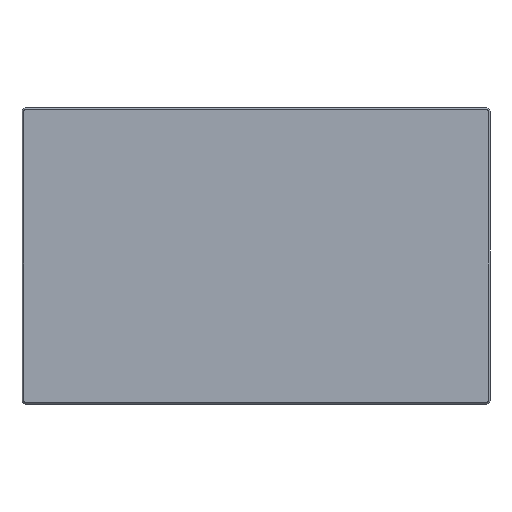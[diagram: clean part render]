
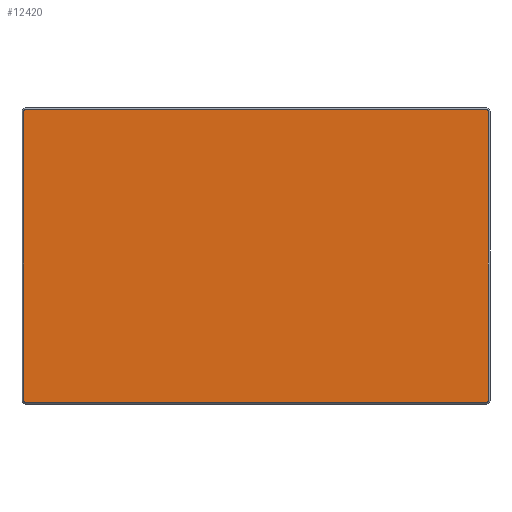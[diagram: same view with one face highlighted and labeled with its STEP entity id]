
A CAD part, top view. The second image highlights one B-rep face of the part: STEP entity #12420.
In plain terms, the highlighted planar face has unit normal (0, 0, 1).
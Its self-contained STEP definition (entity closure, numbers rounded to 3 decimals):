
#93 = EDGE_CURVE ( 'NONE', #1311, #3936, #15179, .T. ) ;
#364 = VERTEX_POINT ( 'NONE', #12209 ) ;
#395 = EDGE_CURVE ( 'NONE', #364, #12132, #5463, .T. ) ;
#541 = VECTOR ( 'NONE', #9285, 1000. ) ;
#870 = CARTESIAN_POINT ( 'NONE',  ( -227.8, -145.3, 8. ) ) ;
#1155 = CARTESIAN_POINT ( 'NONE',  ( -230.3, 142.8, 8. ) ) ;
#1214 = EDGE_CURVE ( 'NONE', #8481, #13549, #14769, .T. ) ;
#1282 = ORIENTED_EDGE ( 'NONE', *, *, #6773, .T. ) ;
#1283 = ORIENTED_EDGE ( 'NONE', *, *, #12826, .T. ) ;
#1311 = VERTEX_POINT ( 'NONE', #4247 ) ;
#1567 = VECTOR ( 'NONE', #6406, 1000. ) ;
#1618 = AXIS2_PLACEMENT_3D ( 'NONE', #10895, #3117, #12178 ) ;
#1865 = AXIS2_PLACEMENT_3D ( 'NONE', #14381, #5672, #11894 ) ;
#2381 = LINE ( 'NONE', #3770, #1567 ) ;
#2421 = CARTESIAN_POINT ( 'NONE',  ( 227.8, 142.8, 8. ) ) ;
#2474 = DIRECTION ( 'NONE',  ( 0., 0., 1. ) ) ;
#3117 = DIRECTION ( 'NONE',  ( 0., 0., 1. ) ) ;
#3415 = CARTESIAN_POINT ( 'NONE',  ( -227.8, 145.3, 8. ) ) ;
#3770 = CARTESIAN_POINT ( 'NONE',  ( 0., -145.3, 8. ) ) ;
#3936 = VERTEX_POINT ( 'NONE', #12376 ) ;
#3951 = PLANE ( 'NONE',  #12487 ) ;
#4247 = CARTESIAN_POINT ( 'NONE',  ( 230.3, 142.8, 8. ) ) ;
#4445 = CIRCLE ( 'NONE', #9633, 2.5 ) ;
#4862 = VERTEX_POINT ( 'NONE', #870 ) ;
#5061 = FACE_OUTER_BOUND ( 'NONE', #6207, .T. ) ;
#5463 = CIRCLE ( 'NONE', #1865, 2.5 ) ;
#5672 = DIRECTION ( 'NONE',  ( 0., 0., 1. ) ) ;
#5827 = DIRECTION ( 'NONE',  ( -1., 0., 0. ) ) ;
#6207 = EDGE_LOOP ( 'NONE', ( #10513, #15489, #1283, #14547, #11409, #11677, #10727, #1282 ) ) ;
#6406 = DIRECTION ( 'NONE',  ( 1., 0., 0. ) ) ;
#6573 = DIRECTION ( 'NONE',  ( 1., 0., 0. ) ) ;
#6668 = VECTOR ( 'NONE', #8381, 1000. ) ;
#6735 = CARTESIAN_POINT ( 'NONE',  ( 0., 145.3, 8. ) ) ;
#6749 = EDGE_CURVE ( 'NONE', #12132, #1311, #15757, .T. ) ;
#6773 = EDGE_CURVE ( 'NONE', #6972, #8481, #4445, .T. ) ;
#6922 = VECTOR ( 'NONE', #15700, 1000. ) ;
#6972 = VERTEX_POINT ( 'NONE', #3415 ) ;
#8230 = CARTESIAN_POINT ( 'NONE',  ( -230.3, -142.8, 8. ) ) ;
#8381 = DIRECTION ( 'NONE',  ( 0., 1., 0. ) ) ;
#8481 = VERTEX_POINT ( 'NONE', #1155 ) ;
#9285 = DIRECTION ( 'NONE',  ( -1., 0., 0. ) ) ;
#9629 = DIRECTION ( 'NONE',  ( -1., 0., 0. ) ) ;
#9633 = AXIS2_PLACEMENT_3D ( 'NONE', #13336, #16364, #9629 ) ;
#10476 = LINE ( 'NONE', #6735, #541 ) ;
#10513 = ORIENTED_EDGE ( 'NONE', *, *, #1214, .T. ) ;
#10727 = ORIENTED_EDGE ( 'NONE', *, *, #13623, .T. ) ;
#10895 = CARTESIAN_POINT ( 'NONE',  ( -227.8, -142.8, 8. ) ) ;
#11409 = ORIENTED_EDGE ( 'NONE', *, *, #6749, .T. ) ;
#11677 = ORIENTED_EDGE ( 'NONE', *, *, #93, .T. ) ;
#11854 = AXIS2_PLACEMENT_3D ( 'NONE', #2421, #2474, #5827 ) ;
#11894 = DIRECTION ( 'NONE',  ( -1., 0., 0. ) ) ;
#12132 = VERTEX_POINT ( 'NONE', #15901 ) ;
#12178 = DIRECTION ( 'NONE',  ( -1., 0., 0. ) ) ;
#12209 = CARTESIAN_POINT ( 'NONE',  ( 227.8, -145.3, 8. ) ) ;
#12376 = CARTESIAN_POINT ( 'NONE',  ( 227.8, 145.3, 8. ) ) ;
#12420 = ADVANCED_FACE ( 'NONE', ( #5061 ), #3951, .T. ) ;
#12487 = AXIS2_PLACEMENT_3D ( 'NONE', #13011, #14293, #6573 ) ;
#12536 = CIRCLE ( 'NONE', #1618, 2.5 ) ;
#12826 = EDGE_CURVE ( 'NONE', #4862, #364, #2381, .T. ) ;
#13011 = CARTESIAN_POINT ( 'NONE',  ( 0., 0., 8. ) ) ;
#13336 = CARTESIAN_POINT ( 'NONE',  ( -227.8, 142.8, 8. ) ) ;
#13549 = VERTEX_POINT ( 'NONE', #8230 ) ;
#13623 = EDGE_CURVE ( 'NONE', #3936, #6972, #10476, .T. ) ;
#14293 = DIRECTION ( 'NONE',  ( 0., 0., 1. ) ) ;
#14381 = CARTESIAN_POINT ( 'NONE',  ( 227.8, -142.8, 8. ) ) ;
#14547 = ORIENTED_EDGE ( 'NONE', *, *, #395, .T. ) ;
#14769 = LINE ( 'NONE', #15702, #6922 ) ;
#15179 = CIRCLE ( 'NONE', #11854, 2.5 ) ;
#15209 = CARTESIAN_POINT ( 'NONE',  ( 230.3, 0., 8. ) ) ;
#15489 = ORIENTED_EDGE ( 'NONE', *, *, #16699, .T. ) ;
#15700 = DIRECTION ( 'NONE',  ( 0., -1., 0. ) ) ;
#15702 = CARTESIAN_POINT ( 'NONE',  ( -230.3, 0., 8. ) ) ;
#15757 = LINE ( 'NONE', #15209, #6668 ) ;
#15901 = CARTESIAN_POINT ( 'NONE',  ( 230.3, -142.8, 8. ) ) ;
#16364 = DIRECTION ( 'NONE',  ( 0., 0., 1. ) ) ;
#16699 = EDGE_CURVE ( 'NONE', #13549, #4862, #12536, .T. ) ;
